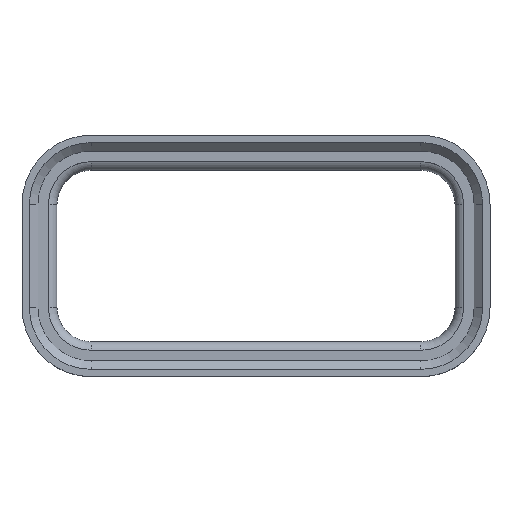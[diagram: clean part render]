
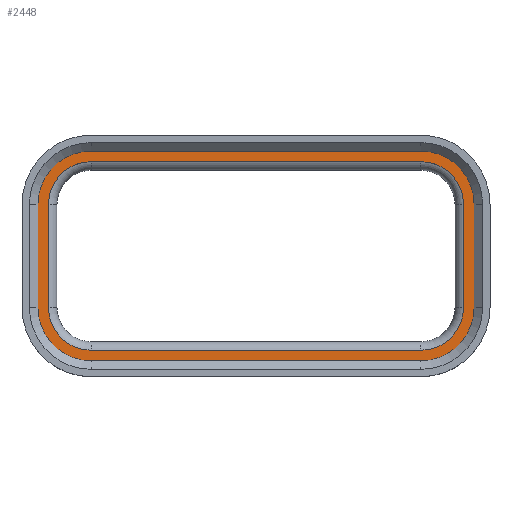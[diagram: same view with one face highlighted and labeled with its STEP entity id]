
A CAD part, top view. The second image highlights one B-rep face of the part: STEP entity #2448.
In plain terms, the highlighted planar face has unit normal (0, 0, 1).
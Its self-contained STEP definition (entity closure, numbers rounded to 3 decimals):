
#272=DIRECTION('',(1.,0.,0.));
#273=VECTOR('',#272,22.733);
#274=CARTESIAN_POINT('',(-11.367,-7.239,-0.572));
#275=LINE('',#274,#273);
#280=CARTESIAN_POINT('',(-11.367,-3.556,-0.572));
#281=DIRECTION('',(0.,0.,1.));
#282=DIRECTION('',(-1.,0.,0.));
#283=AXIS2_PLACEMENT_3D('',#280,#281,#282);
#293=DIRECTION('',(0.,-1.,0.));
#294=VECTOR('',#293,7.112);
#295=CARTESIAN_POINT('',(-15.05,3.556,-0.572));
#296=LINE('',#295,#294);
#301=CARTESIAN_POINT('',(-11.367,3.556,-0.572));
#302=DIRECTION('',(0.,0.,1.));
#303=DIRECTION('',(0.,1.,0.));
#304=AXIS2_PLACEMENT_3D('',#301,#302,#303);
#310=DIRECTION('',(-1.,0.,0.));
#311=VECTOR('',#310,22.733);
#312=CARTESIAN_POINT('',(11.367,7.239,-0.572));
#313=LINE('',#312,#311);
#318=CARTESIAN_POINT('',(11.367,3.556,-0.572));
#319=DIRECTION('',(0.,0.,1.));
#320=DIRECTION('',(1.,0.,0.));
#321=AXIS2_PLACEMENT_3D('',#318,#319,#320);
#327=DIRECTION('',(0.,1.,0.));
#328=VECTOR('',#327,7.112);
#329=CARTESIAN_POINT('',(15.05,-3.556,-0.572));
#330=LINE('',#329,#328);
#335=CARTESIAN_POINT('',(11.367,-3.556,-0.572));
#336=DIRECTION('',(0.,0.,1.));
#337=DIRECTION('',(0.,-1.,0.));
#338=AXIS2_PLACEMENT_3D('',#335,#336,#337);
#340=DIRECTION('',(1.,0.,0.));
#341=VECTOR('',#340,22.733);
#342=CARTESIAN_POINT('',(-11.367,-6.502,-0.572));
#343=LINE('',#342,#341);
#344=CARTESIAN_POINT('',(11.367,-3.556,-0.572));
#345=DIRECTION('',(0.,0.,1.));
#346=DIRECTION('',(0.,-1.,0.));
#347=AXIS2_PLACEMENT_3D('',#344,#345,#346);
#349=DIRECTION('',(0.,1.,0.));
#350=VECTOR('',#349,7.112);
#351=CARTESIAN_POINT('',(14.313,-3.556,-0.572));
#352=LINE('',#351,#350);
#353=CARTESIAN_POINT('',(11.367,3.556,-0.572));
#354=DIRECTION('',(0.,0.,1.));
#355=DIRECTION('',(1.,0.,0.));
#356=AXIS2_PLACEMENT_3D('',#353,#354,#355);
#358=DIRECTION('',(-1.,0.,0.));
#359=VECTOR('',#358,22.733);
#360=CARTESIAN_POINT('',(11.367,6.502,-0.572));
#361=LINE('',#360,#359);
#362=CARTESIAN_POINT('',(-11.367,3.556,-0.572));
#363=DIRECTION('',(0.,0.,1.));
#364=DIRECTION('',(0.,1.,0.));
#365=AXIS2_PLACEMENT_3D('',#362,#363,#364);
#367=DIRECTION('',(0.,-1.,0.));
#368=VECTOR('',#367,7.112);
#369=CARTESIAN_POINT('',(-14.313,3.556,-0.572));
#370=LINE('',#369,#368);
#371=CARTESIAN_POINT('',(-11.367,-3.556,-0.572));
#372=DIRECTION('',(0.,0.,1.));
#373=DIRECTION('',(-1.,0.,0.));
#374=AXIS2_PLACEMENT_3D('',#371,#372,#373);
#1731=CARTESIAN_POINT('',(-11.367,-6.502,-0.572));
#1732=VERTEX_POINT('',#1731);
#1733=CARTESIAN_POINT('',(-11.367,-7.239,-0.572));
#1735=VERTEX_POINT('',#1733);
#1751=CARTESIAN_POINT('',(11.367,-6.502,-0.572));
#1752=VERTEX_POINT('',#1751);
#1753=CARTESIAN_POINT('',(11.367,-7.239,-0.572));
#1755=VERTEX_POINT('',#1753);
#1779=CARTESIAN_POINT('',(14.313,-3.556,-0.572));
#1780=VERTEX_POINT('',#1779);
#1781=CARTESIAN_POINT('',(15.05,-3.556,-0.572));
#1783=VERTEX_POINT('',#1781);
#1803=CARTESIAN_POINT('',(14.313,3.556,-0.572));
#1804=VERTEX_POINT('',#1803);
#1805=CARTESIAN_POINT('',(15.05,3.556,-0.572));
#1807=VERTEX_POINT('',#1805);
#1827=CARTESIAN_POINT('',(11.367,6.502,-0.572));
#1828=VERTEX_POINT('',#1827);
#1829=CARTESIAN_POINT('',(11.367,7.239,-0.572));
#1831=VERTEX_POINT('',#1829);
#1851=CARTESIAN_POINT('',(-11.367,6.502,-0.572));
#1852=VERTEX_POINT('',#1851);
#1853=CARTESIAN_POINT('',(-11.367,7.239,-0.572));
#1855=VERTEX_POINT('',#1853);
#1875=CARTESIAN_POINT('',(-14.313,3.556,-0.572));
#1876=VERTEX_POINT('',#1875);
#1877=CARTESIAN_POINT('',(-15.05,3.556,-0.572));
#1879=VERTEX_POINT('',#1877);
#1899=CARTESIAN_POINT('',(-14.313,-3.556,-0.572));
#1900=VERTEX_POINT('',#1899);
#1901=CARTESIAN_POINT('',(-15.05,-3.556,-0.572));
#1903=VERTEX_POINT('',#1901);
#2415=CARTESIAN_POINT('',(-11.367,-6.502,-0.572));
#2416=DIRECTION('',(0.,0.,1.));
#2417=DIRECTION('',(0.,-1.,0.));
#2418=AXIS2_PLACEMENT_3D('',#2415,#2416,#2417);
#2419=PLANE('',#2418);
#2420=ORIENTED_EDGE('',*,*,#2325,.F.);
#2421=ORIENTED_EDGE('',*,*,#2339,.F.);
#2422=ORIENTED_EDGE('',*,*,#2353,.F.);
#2423=ORIENTED_EDGE('',*,*,#2367,.F.);
#2424=ORIENTED_EDGE('',*,*,#2381,.F.);
#2425=ORIENTED_EDGE('',*,*,#2395,.F.);
#2426=ORIENTED_EDGE('',*,*,#2408,.F.);
#2427=ORIENTED_EDGE('',*,*,#2310,.F.);
#2428=EDGE_LOOP('',(#2420,#2421,#2422,#2423,#2424,#2425,#2426,#2427));
#2429=FACE_OUTER_BOUND('',#2428,.F.);
#2431=ORIENTED_EDGE('',*,*,#2430,.T.);
#2433=ORIENTED_EDGE('',*,*,#2432,.T.);
#2435=ORIENTED_EDGE('',*,*,#2434,.T.);
#2437=ORIENTED_EDGE('',*,*,#2436,.T.);
#2439=ORIENTED_EDGE('',*,*,#2438,.T.);
#2441=ORIENTED_EDGE('',*,*,#2440,.T.);
#2443=ORIENTED_EDGE('',*,*,#2442,.T.);
#2445=ORIENTED_EDGE('',*,*,#2444,.T.);
#2446=EDGE_LOOP('',(#2431,#2433,#2435,#2437,#2439,#2441,#2443,#2445));
#2447=FACE_BOUND('',#2446,.F.);
#2448=ADVANCED_FACE('',(#2429,#2447),#2419,.T.);
#284=CIRCLE('',#283,3.683);
#305=CIRCLE('',#304,3.683);
#322=CIRCLE('',#321,3.683);
#339=CIRCLE('',#338,3.683);
#348=CIRCLE('',#347,2.946);
#357=CIRCLE('',#356,2.946);
#366=CIRCLE('',#365,2.946);
#375=CIRCLE('',#374,2.946);
#2310=EDGE_CURVE('',#1735,#1755,#275,.T.);
#2325=EDGE_CURVE('',#1903,#1735,#284,.T.);
#2339=EDGE_CURVE('',#1879,#1903,#296,.T.);
#2353=EDGE_CURVE('',#1855,#1879,#305,.T.);
#2367=EDGE_CURVE('',#1831,#1855,#313,.T.);
#2381=EDGE_CURVE('',#1807,#1831,#322,.T.);
#2395=EDGE_CURVE('',#1783,#1807,#330,.T.);
#2408=EDGE_CURVE('',#1755,#1783,#339,.T.);
#2430=EDGE_CURVE('',#1732,#1752,#343,.T.);
#2432=EDGE_CURVE('',#1752,#1780,#348,.T.);
#2434=EDGE_CURVE('',#1780,#1804,#352,.T.);
#2436=EDGE_CURVE('',#1804,#1828,#357,.T.);
#2438=EDGE_CURVE('',#1828,#1852,#361,.T.);
#2440=EDGE_CURVE('',#1852,#1876,#366,.T.);
#2442=EDGE_CURVE('',#1876,#1900,#370,.T.);
#2444=EDGE_CURVE('',#1900,#1732,#375,.T.);
